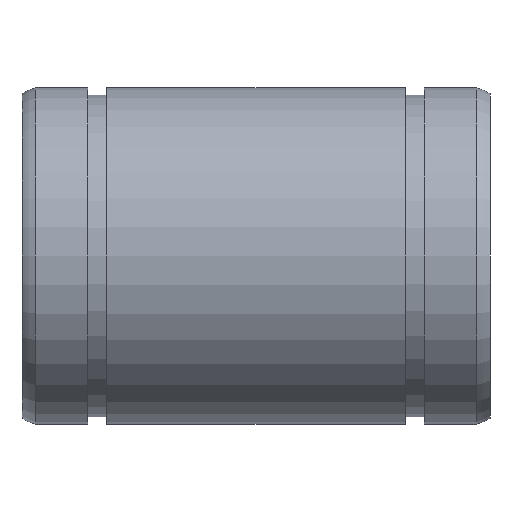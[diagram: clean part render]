
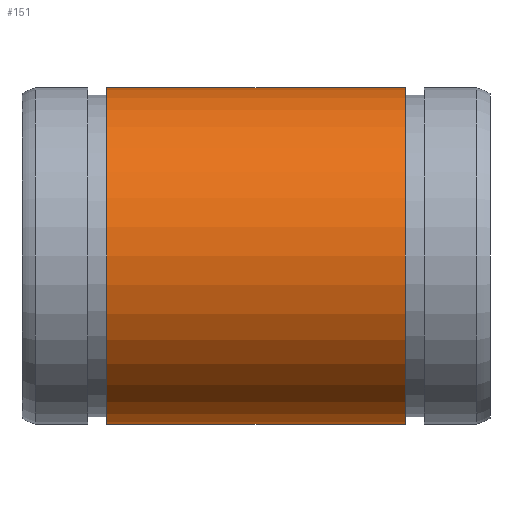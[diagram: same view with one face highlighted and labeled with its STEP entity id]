
A CAD part, front view. The second image highlights one B-rep face of the part: STEP entity #151.
In plain terms, the highlighted cylindrical face has radius 11.5 mm (diameter 23 mm), a full revolution.
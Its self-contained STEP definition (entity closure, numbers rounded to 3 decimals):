
#117=CARTESIAN_POINT('',(26.2,0.0,11.5));
#118=VERTEX_POINT('',#117);
#119=CARTESIAN_POINT('',(26.2,0.0,0.));
#120=DIRECTION('',(-1.0,0.0,0.0));
#121=DIRECTION('',(0.0,0.0,1.0));
#122=AXIS2_PLACEMENT_3D('',#119,#120,#121);
#123=CIRCLE('',#122,11.5);
#124=EDGE_CURVE('',#118,#118,#123,.T.);
#132=CARTESIAN_POINT('',(16.,0.0,0.));
#133=DIRECTION('',(-1.0,0.0,0.));
#134=DIRECTION('',(0.0,0.0,1.0));
#135=AXIS2_PLACEMENT_3D('',#132,#133,#134);
#136=CYLINDRICAL_SURFACE('',#135,11.5);
#137=CARTESIAN_POINT('',(5.8,0.0,11.5));
#138=VERTEX_POINT('',#137);
#139=CARTESIAN_POINT('',(5.8,0.0,0.));
#140=DIRECTION('',(-1.0,0.0,0.0));
#141=DIRECTION('',(0.0,0.0,1.0));
#142=AXIS2_PLACEMENT_3D('',#139,#140,#141);
#143=CIRCLE('',#142,11.5);
#144=EDGE_CURVE('',#138,#138,#143,.T.);
#145=ORIENTED_EDGE('',*,*,#144,.F.);
#146=EDGE_LOOP('',(#145));
#147=FACE_OUTER_BOUND('',#146,.T.);
#148=ORIENTED_EDGE('',*,*,#124,.T.);
#149=EDGE_LOOP('',(#148));
#150=FACE_BOUND('',#149,.T.);
#151=ADVANCED_FACE('',(#147,#150),#136,.T.);
